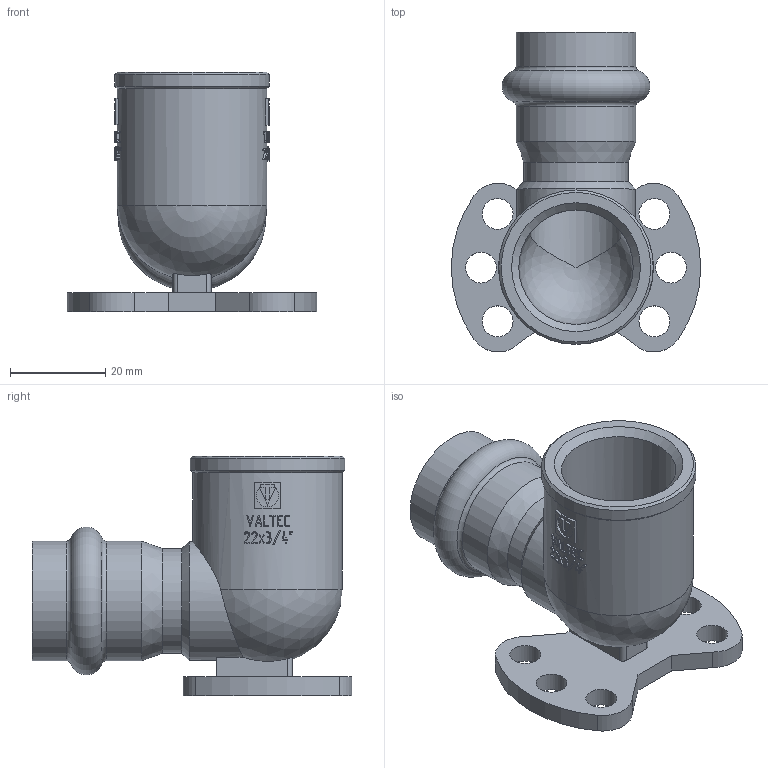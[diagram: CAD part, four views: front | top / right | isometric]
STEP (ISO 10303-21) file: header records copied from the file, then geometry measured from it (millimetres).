
FILE_DESCRIPTION(('STEP AP203'), '1');
FILE_NAME('VTi.954.I.002205', '', ('UNSPECIFIED'), ('UNSPECIFIED'), 'C3D Converter', 'C3D Toolkit', '');
FILE_SCHEMA(('CONFIG_CONTROL_DESIGN'));
Length unit declared in the file: millimetre
Bounding box: 52.5 x 67.23 x 50.5 mm (x, y, z)
Volume: 23476.2 mm3; surface area: 17109 mm2
Topology: 1 solids, 1 shells, 720 faces, 2033 edges, 1349 vertices
Faces by surface type: extrusion 398, plane 245, cylinder 62, torus 7, cone 6, sphere 2
Full cylindrical faces by diameter (mm): 6.5 x6, 19.1 x1, 22 x1, 22.3 x2, 24.1 x1, 25 x1, 25.2 x2, 31.5 x1, 32.5 x1
Entity records: 30442 total; most frequent: CARTESIAN_POINT 13942, ORIENTED_EDGE 4004, DIRECTION 2208, EDGE_CURVE 2002, VERTEX_POINT 1349, B_SPLINE_CURVE_WITH_KNOTS 1210, VECTOR 1158, EDGE_LOOP 799
